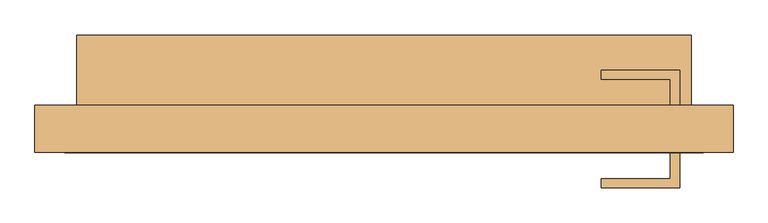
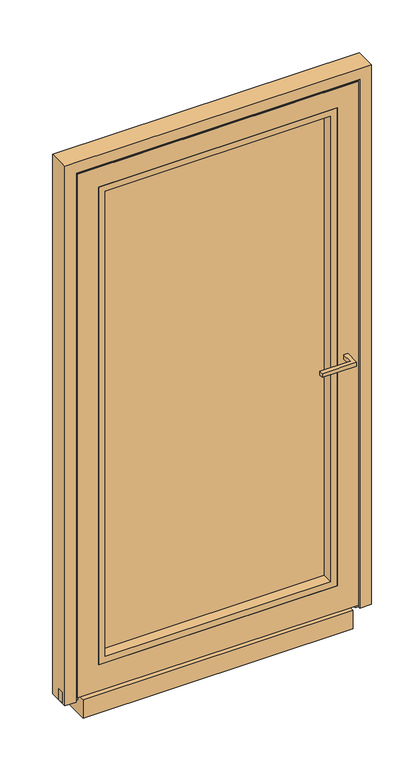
"""IFC4 building model written with IfcOpenShell, lengths in millimetres: door geometry, Reynaers_MasterLine 8_Door_Plinth_Inward Opening_Single Vent : Reynaers_MasterLine 8_Door_Plinth_Inward Opening_Single Vent."""

import ifcopenshell
import ifcopenshell.guid

model = None  # the IFC model being written
_history = None  # IfcOwnerHistory: only IFC2X3 demands one
_inside = {}  # id of a spatial element -> (the spatial element, [elements in it])
_under = {}  # id of a project, library or spatial element -> (it, [spatial elements below it])
_declared = {}  # id of a project -> (the project, [libraries it declares])
_typed = {}  # id of a type object -> (the type object, [elements of that type])
_made_of = {}  # id of a material, layer set ... -> (it, [elements and type objects made of it])


def new_model(schema):
    """Start an empty IFC model of exactly this schema.

    Asked for "IFC4X3", IfcOpenShell would pick the latest addendum, in which some entities
    have other attributes; the version numbers below select the first issue.
    IFC2X3 requires an IfcOwnerHistory on every rooted entity: one is made here for all.
    """
    global model, _history
    if schema == "IFC4X3":
        model = ifcopenshell.file(schema_version=(4, 3, 0, 0))
    else:
        model = ifcopenshell.file(schema=schema)
    _inside.clear()
    _under.clear()
    _declared.clear()
    _typed.clear()
    _made_of.clear()
    _history = None
    if model.schema == "IFC2X3":
        org = make("IfcOrganization", Name="unknown")
        user = make(
            "IfcPersonAndOrganization",
            ThePerson=make("IfcPerson", FamilyName="unknown"),
            TheOrganization=org,
        )
        app = make(
            "IfcApplication",
            ApplicationDeveloper=org,
            Version="unknown",
            ApplicationFullName="unknown",
            ApplicationIdentifier="unknown",
        )
        _history = make(
            "IfcOwnerHistory",
            OwningUser=user,
            OwningApplication=app,
            ChangeAction="ADDED",
            CreationDate=0,
        )
    return model


def make(cls, **values):
    """One entity of the class cls with the attributes given. An attribute that is None is left unset."""
    return model.create_entity(
        cls, **{name: value for name, value in values.items() if value is not None}
    )


def rooted(cls, **values):
    """An entity with a GlobalId (a new one), such as an element, a storey or a relation."""
    return make(cls, GlobalId=ifcopenshell.guid.new(), OwnerHistory=_history, **values)


def si_unit(unit_type, name, prefix=None):
    """IfcSIUnit, for example si_unit("LENGTHUNIT", "METRE", prefix="MILLI")."""
    return make("IfcSIUnit", UnitType=unit_type, Prefix=prefix, Name=name)


def assignment(units):
    """IfcUnitAssignment: the units of a project."""
    return None if units is None else make("IfcUnitAssignment", Units=units)


def point(xyz):
    """IfcCartesianPoint."""
    return None if xyz is None else make("IfcCartesianPoint", Coordinates=xyz)


def direction(xyz):
    """IfcDirection."""
    return None if xyz is None else make("IfcDirection", DirectionRatios=xyz)


def frame(location, z_axis=None, x_axis=None):
    """IfcAxis2Placement3D, a coordinate frame: its origin and axes. An axis left out is left unset."""
    return make(
        "IfcAxis2Placement3D",
        Location=point(location),
        Axis=direction(z_axis),
        RefDirection=direction(x_axis),
    )


def origin():
    """The frame at (0, 0, 0) with its axes left unset."""
    return frame((0.0, 0.0, 0.0))


def place(relative_to, where):
    """IfcLocalPlacement: puts the frame where relative to a parent placement (None: the world)."""
    return make(
        "IfcLocalPlacement", PlacementRelTo=relative_to, RelativePlacement=where
    )


def context(
    kind, dimensions, precision=None, world=None, true_north=None, identifier=None
):
    """IfcGeometricRepresentationContext, for example the 3D "Model" context."""
    return make(
        "IfcGeometricRepresentationContext",
        ContextIdentifier=identifier,
        ContextType=kind,
        CoordinateSpaceDimension=dimensions,
        Precision=precision,
        WorldCoordinateSystem=world,
        TrueNorth=true_north,
    )


def project(units=None, contexts=None):
    """IfcProject with its units and contexts."""
    return rooted(
        "IfcProject",
        Name="project",
        RepresentationContexts=contexts,
        UnitsInContext=assignment(units),
    )


def spatial(cls, under=None, at=None, **own):
    """A site, building, storey or space (cls), placed at a placement, below another one or the project."""
    s = rooted(cls, ObjectPlacement=at, **own)
    if under is not None:
        _under.setdefault(under.id(), (under, []))[1].append(s)
    return s


def polyline(points):
    """IfcPolyline through the points."""
    return make("IfcPolyline", Points=[point(p) for p in points])


def outline(outer, holes=None, kind="AREA"):
    """IfcArbitraryClosedProfileDef: a profile drawn as a closed curve; with holes, ...WithVoids."""
    if holes is None:
        return make("IfcArbitraryClosedProfileDef", ProfileType=kind, OuterCurve=outer)
    return make(
        "IfcArbitraryProfileDefWithVoids",
        ProfileType=kind,
        OuterCurve=outer,
        InnerCurves=holes,
    )


def extrude(swept, where, along, depth):
    """IfcExtrudedAreaSolid: the profile swept, set in the frame where, extruded along a direction by depth."""
    return make(
        "IfcExtrudedAreaSolid",
        SweptArea=swept,
        Position=where,
        ExtrudedDirection=direction(along),
        Depth=depth,
    )


def faces_of(points, faces, orient=None, outer=None):
    """IfcFace entities. A face is a list of loops; a loop is a list of indices into points, from 0.

    orient and outer hold one flag for each loop. By default every Orientation is true, the
    first loop of a face is its IfcFaceOuterBound and the others are IfcFaceBound.
    """
    made = []
    for i, loops in enumerate(faces):
        bounds = []
        for j, loop in enumerate(loops):
            is_outer = j == 0 if outer is None else outer[i][j]
            bounds.append(
                make(
                    "IfcFaceOuterBound" if is_outer else "IfcFaceBound",
                    Bound=make("IfcPolyLoop", Polygon=[points[k] for k in loop]),
                    Orientation=True if orient is None else orient[i][j],
                )
            )
        made.append(make("IfcFace", Bounds=bounds))
    return made


def faceted_brep(points, faces, orient=None, outer=None, voids=None):
    """IfcFacetedBrep: a solid bounded by flat faces; with voids (closed shells), ...WithVoids."""
    shared = [point(p) for p in points]
    hull = make("IfcClosedShell", CfsFaces=faces_of(shared, faces, orient, outer))
    if voids is None:
        return make("IfcFacetedBrep", Outer=hull)
    return make(
        "IfcFacetedBrepWithVoids",
        Outer=hull,
        Voids=[
            make(cls, CfsFaces=faces_of(shared, fs, o, b)) for cls, fs, o, b in voids
        ],
    )


def shape(context_of_items, identifier, shape_type, items):
    """IfcShapeRepresentation: the items that make up one representation, for example the "Body"."""
    return make(
        "IfcShapeRepresentation",
        ContextOfItems=context_of_items,
        RepresentationIdentifier=identifier,
        RepresentationType=shape_type,
        Items=items,
    )


def source(mapping_origin, context_of_items, identifier, shape_type, items):
    """IfcRepresentationMap: a shape defined once, which mapped items show again and again."""
    return make(
        "IfcRepresentationMap",
        MappingOrigin=mapping_origin,
        MappedRepresentation=shape(context_of_items, identifier, shape_type, items),
    )


def transform(
    local_origin,
    x_axis=None,
    y_axis=None,
    z_axis=None,
    scale=None,
    scale2=None,
    scale3=None,
    uniform=True,
):
    """IfcCartesianTransformationOperator3D, or its non-uniform kind. x_axis, y_axis, z_axis: its Axis1, 2, 3."""
    if uniform:
        return make(
            "IfcCartesianTransformationOperator3D",
            Axis1=direction(x_axis),
            Axis2=direction(y_axis),
            LocalOrigin=point(local_origin),
            Scale=scale,
            Axis3=direction(z_axis),
        )
    return make(
        "IfcCartesianTransformationOperator3DnonUniform",
        Axis1=direction(x_axis),
        Axis2=direction(y_axis),
        LocalOrigin=point(local_origin),
        Scale=scale,
        Axis3=direction(z_axis),
        Scale2=scale2,
        Scale3=scale3,
    )


def mapped(mapping_source, mapping_target):
    """IfcMappedItem: shows the shape of a source again, moved by a transform."""
    return make(
        "IfcMappedItem", MappingSource=mapping_source, MappingTarget=mapping_target
    )


def made_of(thing, what):
    """Note that an element or type object is made of a material, layer set ...; save() writes the relation."""
    if what is not None:
        _made_of.setdefault(what.id(), (what, []))[1].append(thing)
    return thing


def element(
    cls,
    number,
    at=None,
    inside=None,
    cuts=None,
    type_object=None,
    material=None,
    context=None,
    identifier="Body",
    shape_type=None,
    held_by="IfcProductDefinitionShape",
    body=None,
    shapes=None,
    **own,
):
    """One element of the class cls, such as IfcWall. Its Tag is "e" and its number.

    at: its placement. inside: the storey or other place that contains it. cuts: it is an
    opening in that element (IfcRelVoidsElement). A single representation is given by context,
    identifier, shape_type and body (its items); several are given by shapes. held_by: the class
    of the entity that holds the representations. save() writes the other relations.
    """
    e = rooted(cls, Tag="e%d" % number, ObjectPlacement=at, **own)
    if body is not None:
        shapes = [shape(context, identifier, shape_type, body)]
    if shapes is not None:
        e.Representation = make(held_by, Representations=shapes)
    if inside is not None:
        _inside.setdefault(inside.id(), (inside, []))[1].append(e)
    if cuts is not None:
        rooted(
            "IfcRelVoidsElement", RelatingBuildingElement=cuts, RelatedOpeningElement=e
        )
    if type_object is not None:
        _typed.setdefault(type_object.id(), (type_object, []))[1].append(e)
    return made_of(e, material)


def aggregate(whole, parts):
    """IfcRelAggregates: a whole, such as a stair, and the parts it consists of."""
    return rooted("IfcRelAggregates", RelatingObject=whole, RelatedObjects=parts)


def save(model, path):
    """Write the relations noted so far, then the file.

    IfcRelAggregates (storeys below a building ...), IfcRelContainedInSpatialStructure (elements
    in a storey), IfcRelDefinesByType, IfcRelAssociatesMaterial and IfcRelDeclares: one each for
    every whole, place, type object, material and project.
    """
    for whole, parts in _under.values():
        aggregate(whole, parts)
    for where, things in _inside.values():
        rooted(
            "IfcRelContainedInSpatialStructure",
            RelatedElements=things,
            RelatingStructure=where,
        )
    for kind, things in _typed.values():
        rooted("IfcRelDefinesByType", RelatedObjects=things, RelatingType=kind)
    for what, things in _made_of.values():
        rooted("IfcRelAssociatesMaterial", RelatedObjects=things, RelatingMaterial=what)
    for by, libraries in _declared.values():
        rooted("IfcRelDeclares", RelatingContext=by, RelatedDefinitions=libraries)
    model.write(path)


def door_032f7541(model_context):
    return source(origin(), model_context, "Body", "SolidModel", [
        extrude(outline(polyline([(482.5, 53.7), (467.5, 53.7), (467.5, 96.2), (355.0, 96.2), (355.0, 111.2), (482.5, 111.2), (482.5, 53.7)])), frame((0.0, 0.0, 1001.0), z_axis=(0.0, 0.0, 1.0), x_axis=(1.0, 0.0, 0.0)), (0.0, 0.0, 1.0), 15.0),
        extrude(outline(polyline([(482.5, -23.3), (482.5, -80.8), (355.0, -80.8), (355.0, -65.8), (467.5, -65.8), (467.5, -23.3), (482.5, -23.3)])), frame((0.0, 0.0, 1001.0), z_axis=(0.0, 0.0, 1.0), x_axis=(1.0, 0.0, 0.0)), (0.0, 0.0, 1.0), 15.0),
        extrude(outline(polyline([(436.0, 45.7), (436.0, 21.7), (-436.0, 21.7), (-436.0, 45.7), (436.0, 45.7)])), frame((0.0, 0.0, 125.0), z_axis=(0.0, 0.0, 1.0), x_axis=(1.0, 0.0, 0.0)), (0.0, 0.0, 1.0), 1861.0),
        extrude(outline(polyline([(-501.5, -23.3), (-501.5, 168.7), (501.5, 168.7), (501.5, -23.3), (-501.5, -23.3)])), frame((0.0, 0.0, -72.0), z_axis=(0.0, 0.0, 1.0), x_axis=(1.0, 0.0, 0.0)), (0.0, 0.0, 1.0), 73.0),
        faceted_brep([(-521.5, -23.3, 14.0), (-521.5, -19.5, 14.0), (-506.5, -19.5, 14.0), (-506.5, -19.3036628, 14.0), (506.5, -19.3036628, 14.0), (506.5, -19.5, 14.0), (521.5, -19.5, 14.0), (521.5, -23.3, 14.0), (-495.5, 49.9, 14.0), (-495.5, 53.7, 14.0), (495.5, 53.7, 14.0), (495.5, 49.9, 14.0), (521.5, -23.3, 2071.5), (-521.5, -23.3, 2071.5), (444.0000003, -23.3, 1994.0000003), (444.0000003, -23.3, 117.0), (-444.0000003, -23.3, 117.0), (-444.0000003, -23.3, 1994.0000003), (-521.5, -19.5, 2071.5), (-521.5, -19.5, 44.0), (-521.5, -21.3, 44.0), (-521.5, -21.3, 15.5), (-521.5, -19.5, 15.5), (-506.5, -19.5, 15.5), (506.5, -19.5, 15.5), (521.5, -19.5, 15.5), (521.5, -19.5, 2071.5), (521.5, -19.5, 44.0), (506.5, -19.5, 44.0), (506.5, -19.5, 2056.5), (-506.5, -19.5, 2056.5), (-506.5, -19.5, 44.0), (-506.5, -19.3036628, 15.5), (-506.5, 44.9001837, 2056.5), (-506.5, 44.9001837, 44.0), (506.5, 44.9001837, 2056.5), (506.5, 44.9001837, 44.0), (495.5, 44.9001837, 44.0), (495.5, 44.9001837, 2045.5), (-495.5, 44.9001837, 2045.5), (-495.5, 44.9001837, 44.0), (-495.5, 53.7, 2045.5), (-495.5, 49.9, 15.5), (-495.5, 51.7000025, 15.5), (-495.5, 51.7000025, 44.0), (495.5, 53.7, 2045.5), (-417.0, 53.7, 1967.0), (-417.0, 53.7, 144.0), (417.0, 53.7, 144.0), (417.0, 53.7, 1967.0), (-417.0, 49.7, 1967.0), (-417.0, 49.7, 144.0), (444.0000003, 49.7, 1994.0000003), (-444.0000003, 49.7, 1994.0000003), (-444.0000003, 49.7, 117.0), (444.0000003, 49.7, 117.0), (417.0, 49.7, 1967.0), (417.0, 49.7, 144.0), (521.5, -21.3, 15.5), (521.5, -21.3, 44.0), (506.5, -19.3036628, 15.5), (495.5, 51.7000025, 44.0), (495.5, 51.7000025, 15.5), (495.5, 49.9, 15.5)], [[[0, 1, 2, 3, 4, 5, 6, 7]], [[8, 9, 10, 11]], [[0, 7, 12, 13], [14, 15, 16, 17]], [[1, 0, 13, 18, 19, 20, 21, 22]], [[2, 1, 22, 23]], [[6, 5, 24, 25]], [[18, 26, 27, 28, 29, 30, 31, 19]], [[3, 2, 23, 32]], [[30, 33, 34, 31]], [[33, 35, 36, 37, 38, 39, 40, 34]], [[39, 41, 9, 8, 42, 43, 44, 40]], [[10, 9, 41, 45], [46, 47, 48, 49]], [[46, 50, 51, 47]], [[52, 53, 54, 55], [50, 56, 57, 51]], [[54, 53, 17, 16]], [[13, 12, 26, 18]], [[30, 29, 35, 33]], [[39, 38, 45, 41]], [[46, 49, 56, 50]], [[14, 17, 53, 52]], [[7, 6, 25, 58, 59, 27, 26, 12]], [[5, 4, 60, 24]], [[35, 29, 28, 36]], [[10, 45, 38, 37, 61, 62, 63, 11]], [[56, 49, 48, 57]], [[14, 52, 55, 15]], [[20, 19, 31, 34, 40, 44, 61, 37, 36, 28, 27, 59]], [[61, 44, 43, 62]], [[62, 43, 42, 63]], [[63, 42, 8, 11]], [[60, 4, 3, 32]], [[60, 32, 23, 22, 21, 58, 25, 24]], [[20, 59, 58, 21]], [[16, 15, 55, 54]], [[51, 57, 48, 47]]]),
        extrude(outline(polyline([(-570.0, -5.9979496), (-570.0, 13.8074908), (570.0, 13.8074908), (570.0, -5.9979496), (-570.0, -5.9979496)])), frame((0.0, 0.0, 1.0), z_axis=(0.0, 0.0, 1.0), x_axis=(1.0, 0.0, 0.0)), (0.0, 0.0, 1.0), 42.9965932),
        extrude(outline(polyline([(116.9999997, -444.0000003), (116.9999997, 444.0000003), (1994.0000003, 444.0000003), (1994.0000003, -444.0000003), (116.9999997, -444.0000003)]), holes=[polyline([(1969.0000232, -419.0000232), (1969.0000232, 419.0000232), (141.9999768, 419.0000232), (141.9999768, -419.0000232), (1969.0000232, -419.0000232)])]), frame((0.0, -23.3, 0.0), z_axis=(0.0, 1.0, 0.0), x_axis=(0.0, 0.0, 1.0)), (0.0, 0.0, 1.0), 40.2),
        faceted_brep([(-501.5, 49.9, 0.0), (-516.5, 49.9, 0.0), (-516.5, -14.4998163, 0.0), (-527.5, -14.4998163, 0.0), (-527.5, -23.3, 0.0), (-570.0, -23.3, 0.0), (-570.0, 53.7, 0.0), (-501.5, 53.7, 0.0), (501.5, 49.9, 0.0), (501.5, 53.7, 0.0), (570.0, 53.7, 0.0), (570.0, -23.3, 0.0), (527.5, -23.3, 0.0), (527.5, -14.4998163, 0.0), (516.5, -14.4998163, 0.0), (516.5, 49.9, 0.0), (-501.5, 49.9, 2051.5), (501.5, 49.9, 2051.5), (516.5, 49.9, 2066.5), (-516.5, 49.9, 2066.5), (-516.5, -14.4998163, 2066.5), (516.5, -14.4998163, 2066.5), (527.5, -14.4998163, 2077.5), (-527.5, -14.4998163, 2077.5), (-527.5, -23.3, 2077.5), (527.5, -23.3, 2077.5), (570.0, -23.3, 2120.0), (-570.0, -23.3, 2120.0), (-570.0, 53.7, 2120.0), (570.0, 53.7, 2120.0), (501.5, 53.7, 2051.5), (-501.5, 53.7, 2051.5)], [[[0, 1, 2, 3, 4, 5, 6, 7]], [[8, 9, 10, 11, 12, 13, 14, 15]], [[1, 0, 16, 17, 8, 15, 18, 19]], [[2, 1, 19, 20]], [[3, 2, 20, 21, 14, 13, 22, 23]], [[4, 3, 23, 24]], [[5, 4, 24, 25, 12, 11, 26, 27]], [[6, 5, 27, 28]], [[7, 6, 28, 29, 10, 9, 30, 31]], [[0, 7, 31, 16]], [[20, 19, 18, 21]], [[24, 23, 22, 25]], [[28, 27, 26, 29]], [[16, 31, 30, 17]], [[21, 18, 15, 14]], [[25, 22, 13, 12]], [[29, 26, 11, 10]], [[17, 30, 9, 8]]]),
    ])


if __name__ == "__main__":
    model = new_model("IFC4")
    model_context = context("Model", 3, world=origin())
    ifc_project = project(units=[si_unit("LENGTHUNIT", "METRE", prefix="MILLI")], contexts=[model_context])
    site = spatial("IfcSite", under=ifc_project)
    building = spatial("IfcBuilding", under=site)
    placement = place(None, origin())
    door_shape = door_032f7541(model_context)
    element("IfcDoor", 1, ObjectType="Reynaers_MasterLine 8_Door_Plinth_Inward Opening_Single Vent : Reynaers_MasterLine 8_Door_Plinth_Inward Opening_Single Vent", at=placement, inside=building, context=model_context, shape_type="MappedRepresentation", body=[
        mapped(door_shape, transform((0.0, 0.0, 0.0), x_axis=(1.0, 0.0, 0.0), y_axis=(0.0, 1.0, 0.0), z_axis=(0.0, 0.0, 1.0))),
    ])
    save(model, "model.ifc")
